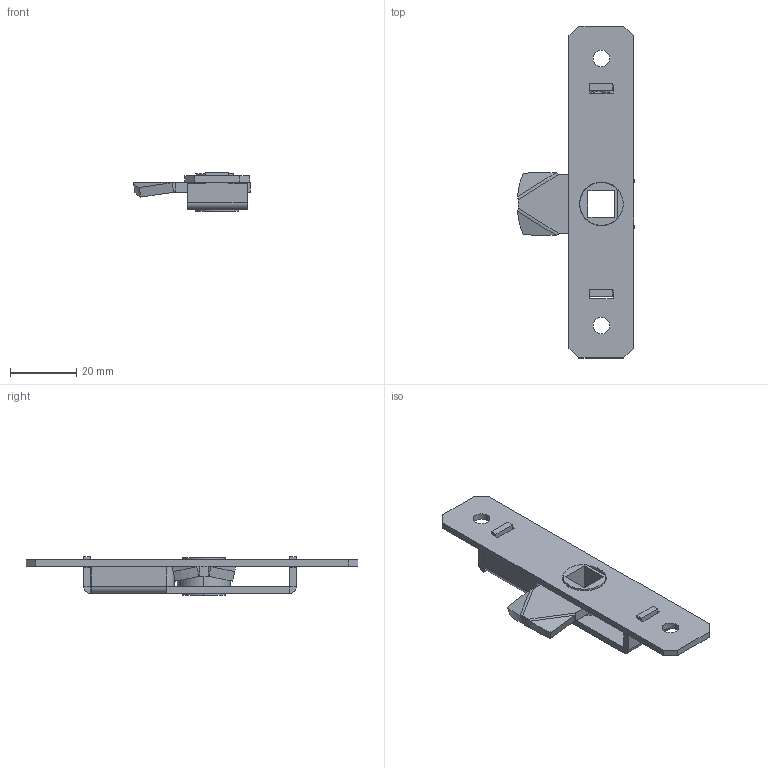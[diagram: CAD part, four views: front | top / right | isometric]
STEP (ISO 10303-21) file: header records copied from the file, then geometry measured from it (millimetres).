
FILE_DESCRIPTION (( 'STEP AP214' ), '1' );
FILE_NAME ('2.521.004.STEP', '2010-02-22T13:23:05', ( '£ukaszC' ), ( '' ), 'SwSTEP 2.0', 'SolidWorks 2008', '' );
FILE_SCHEMA (( 'AUTOMOTIVE_DESIGN' ));
Length unit declared in the file: millimetre
Products named in the file (7): 2.521.004.01_Domyœlna; 2.ZZ2.06.01; 2.521.001.03_Domyœlna; 2.521.004; 2.ZZ2.02.01_Domyœlna; 2.ZZ2.01.01_Domyœlna; 2.521.004.02_Domyœlna
Assembly tree (6 placements, depth 2):
  2.521.004
    2.521.004.01_Domyœlna
    2.ZZ2.06.01
    2.ZZ2.01.01_Domyœlna
    2.ZZ2.02.01_Domyœlna
    2.521.004.02_Domyœlna
    2.521.001.03_Domyœlna
Bounding box: 35.24 x 100 x 11.53 mm (x, y, z)
Volume: 9570.4 mm3; surface area: 11857.8 mm2
Topology: 6 solids, 6 shells, 158 faces, 368 edges, 224 vertices
Faces by surface type: plane 116, cylinder 36, bspline 6
Entity records: 8190 total; most frequent: CARTESIAN_POINT 4379, ORIENTED_EDGE 736, DIRECTION 732, EDGE_CURVE 368, VECTOR 282, LINE 282, AXIS2_PLACEMENT_3D 225, VERTEX_POINT 224
